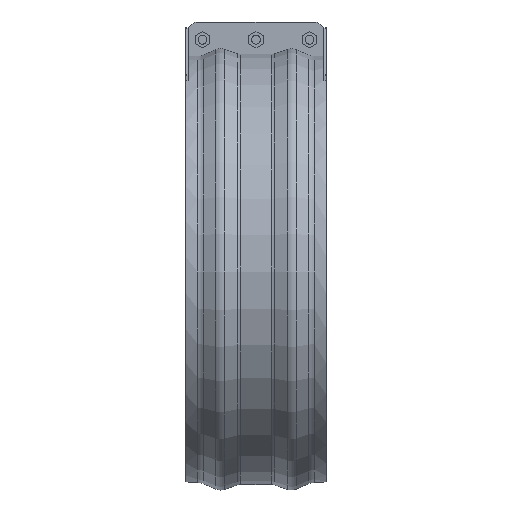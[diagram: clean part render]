
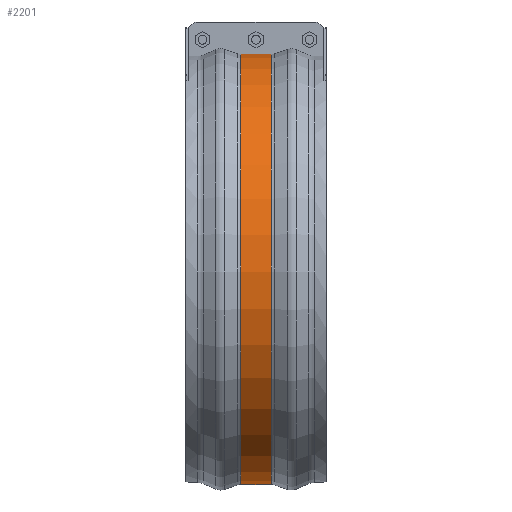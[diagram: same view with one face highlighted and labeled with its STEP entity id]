
A CAD part, front view. The second image highlights one B-rep face of the part: STEP entity #2201.
In plain terms, the highlighted cylindrical face has radius 388.049 mm (diameter 776.098 mm), a partial arc.
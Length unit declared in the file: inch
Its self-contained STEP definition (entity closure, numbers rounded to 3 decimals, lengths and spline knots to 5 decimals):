
#257=FACE_OUTER_BOUND('',#382,.T.);
#382=EDGE_LOOP('',(#1818,#1819,#1820,#1821));
#574=LINE('',#3584,#753);
#577=LINE('',#3669,#756);
#753=VECTOR('',#2893,0.3937);
#756=VECTOR('',#2904,0.3937);
#816=CIRCLE('',#2384,15.27751);
#817=CIRCLE('',#2386,15.27751);
#1017=VERTEX_POINT('',#3576);
#1018=VERTEX_POINT('',#3583);
#1029=VERTEX_POINT('',#3661);
#1030=VERTEX_POINT('',#3668);
#1290=EDGE_CURVE('',#1018,#1017,#574,.T.);
#1305=EDGE_CURVE('',#1030,#1029,#577,.T.);
#1316=EDGE_CURVE('',#1018,#1029,#816,.T.);
#1317=EDGE_CURVE('',#1017,#1030,#817,.T.);
#1818=ORIENTED_EDGE('',*,*,#1290,.T.);
#1819=ORIENTED_EDGE('',*,*,#1317,.T.);
#1820=ORIENTED_EDGE('',*,*,#1305,.T.);
#1821=ORIENTED_EDGE('',*,*,#1316,.F.);
#1994=CYLINDRICAL_SURFACE('',#2385,15.27751);
#2201=ADVANCED_FACE('',(#257),#1994,.T.);
#2384=AXIS2_PLACEMENT_3D('',#3717,#2925,#2926);
#2385=AXIS2_PLACEMENT_3D('',#3718,#2927,#2928);
#2386=AXIS2_PLACEMENT_3D('',#3719,#2929,#2930);
#2893=DIRECTION('',(-1.,0.,0.));
#2904=DIRECTION('',(1.,0.,0.));
#2925=DIRECTION('center_axis',(1.,0.,0.));
#2926=DIRECTION('ref_axis',(0.,0.,-1.));
#2927=DIRECTION('center_axis',(1.,0.,0.));
#2928=DIRECTION('ref_axis',(0.,0.,-1.));
#2929=DIRECTION('center_axis',(1.,0.,0.));
#2930=DIRECTION('ref_axis',(0.,0.,-1.));
#3576=CARTESIAN_POINT('',(-1.08851,-0.375,15.27291));
#3583=CARTESIAN_POINT('',(1.08851,-0.375,15.27291));
#3584=CARTESIAN_POINT('',(0.,-0.375,15.27291));
#3661=CARTESIAN_POINT('',(1.08851,0.375,15.27291));
#3668=CARTESIAN_POINT('',(-1.08851,0.375,15.27291));
#3669=CARTESIAN_POINT('',(0.,0.375,15.27291));
#3717=CARTESIAN_POINT('Origin',(1.08851,0.,0.));
#3718=CARTESIAN_POINT('Origin',(0.,0.,0.));
#3719=CARTESIAN_POINT('Origin',(-1.08851,0.,0.));
